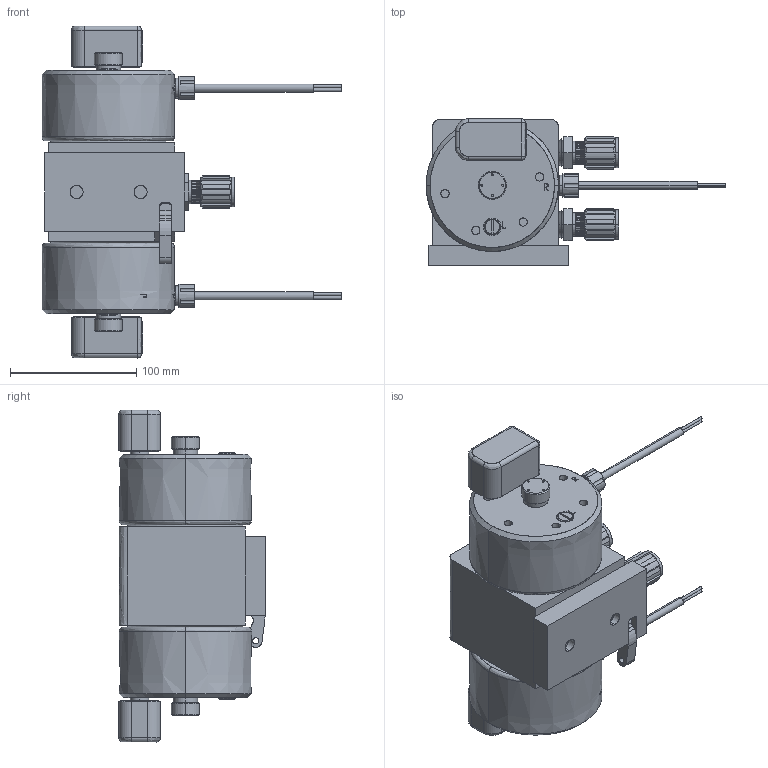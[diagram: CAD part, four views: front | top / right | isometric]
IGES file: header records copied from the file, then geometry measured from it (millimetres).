
Start section: SolidWorks IGES file using analytic representation for surfaces
Global section: file name: S:\Engineer\SW Files\001 All Assemblies\Product Line Upgrade\PFA015\PFA015.IGS; native system: SolidWorks 2012; preprocessor: SolidWorks 2012; author: Karen.Bodily; date: 170731.095405; units: inch
Bounding box: 237.94 x 116.15 x 263.49 mm (x, y, z)
Surface area: 150686.5 mm2 (no closed solid volume)
Topology: 0 solids, 0 shells, 1400 faces, 15357 edges, 15353 vertices
Faces by surface type: bspline 955, revolution 445
